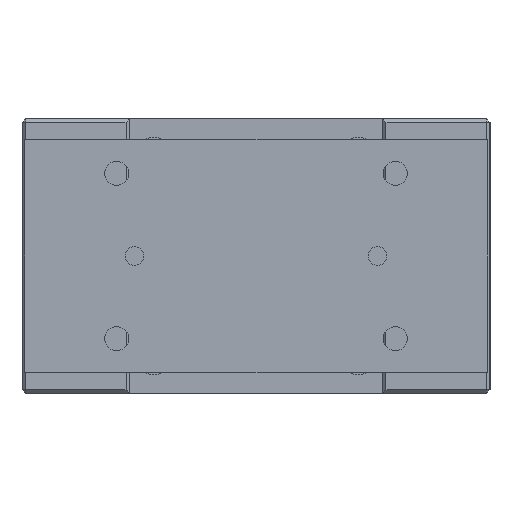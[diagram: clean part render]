
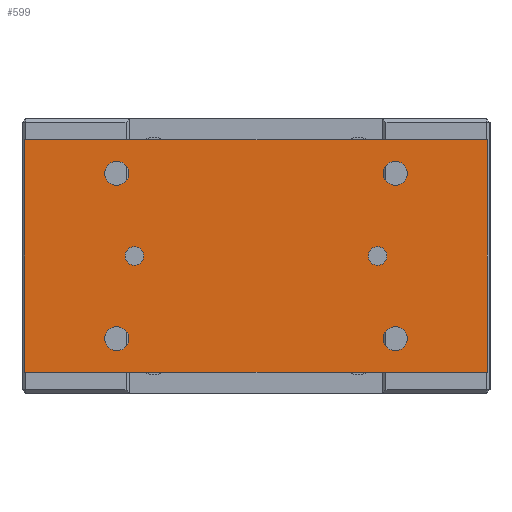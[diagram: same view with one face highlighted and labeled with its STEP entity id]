
A CAD part, left-side view. The second image highlights one B-rep face of the part: STEP entity #599.
In plain terms, the highlighted planar face has unit normal (-1, 0, 0).
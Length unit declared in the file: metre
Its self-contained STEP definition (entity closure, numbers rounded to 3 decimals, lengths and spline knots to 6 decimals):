
#599 = ADVANCED_FACE( '', ( #1366, #1367, #1368, #1369, #1370, #1371, #1372 ), #1373, .T. );
#1366 = FACE_BOUND( '', #2256, .T. );
#1367 = FACE_BOUND( '', #2257, .T. );
#1368 = FACE_BOUND( '', #2258, .T. );
#1369 = FACE_BOUND( '', #2259, .T. );
#1370 = FACE_BOUND( '', #2260, .T. );
#1371 = FACE_BOUND( '', #2261, .T. );
#1372 = FACE_OUTER_BOUND( '', #2262, .T. );
#1373 = PLANE( '', #2263 );
#2256 = EDGE_LOOP( '', ( #3744 ) );
#2257 = EDGE_LOOP( '', ( #3745 ) );
#2258 = EDGE_LOOP( '', ( #3746 ) );
#2259 = EDGE_LOOP( '', ( #3747 ) );
#2260 = EDGE_LOOP( '', ( #3748 ) );
#2261 = EDGE_LOOP( '', ( #3749 ) );
#2262 = EDGE_LOOP( '', ( #3750, #3751, #3752, #3753 ) );
#2263 = AXIS2_PLACEMENT_3D( '', #3754, #3755, #3756 );
#3744 = ORIENTED_EDGE( '', *, *, #4659, .F. );
#3745 = ORIENTED_EDGE( '', *, *, #4706, .T. );
#3746 = ORIENTED_EDGE( '', *, *, #4683, .F. );
#3747 = ORIENTED_EDGE( '', *, *, #4806, .F. );
#3748 = ORIENTED_EDGE( '', *, *, #4537, .F. );
#3749 = ORIENTED_EDGE( '', *, *, #4807, .F. );
#3750 = ORIENTED_EDGE( '', *, *, #4361, .T. );
#3751 = ORIENTED_EDGE( '', *, *, #4323, .T. );
#3752 = ORIENTED_EDGE( '', *, *, #4808, .T. );
#3753 = ORIENTED_EDGE( '', *, *, #4809, .T. );
#3754 = CARTESIAN_POINT( '', ( -0.143, -0.1245, -0.0115 ) );
#3755 = DIRECTION( '', ( -1., 0., 0. ) );
#3756 = DIRECTION( '', ( 0., 0., 1. ) );
#4323 = EDGE_CURVE( '', #4994, #4992, #4995, .T. );
#4361 = EDGE_CURVE( '', #5058, #4994, #5059, .T. );
#4537 = EDGE_CURVE( '', #5338, #5338, #5339, .T. );
#4659 = EDGE_CURVE( '', #5523, #5523, #5524, .T. );
#4683 = EDGE_CURVE( '', #5558, #5558, #5559, .T. );
#4706 = EDGE_CURVE( '', #5588, #5588, #5589, .T. );
#4806 = EDGE_CURVE( '', #5720, #5720, #5721, .T. );
#4807 = EDGE_CURVE( '', #5722, #5722, #5723, .T. );
#4808 = EDGE_CURVE( '', #4992, #5724, #5725, .T. );
#4809 = EDGE_CURVE( '', #5724, #5058, #5726, .T. );
#4992 = VERTEX_POINT( '', #5973 );
#4994 = VERTEX_POINT( '', #5976 );
#4995 = LINE( '', #5977, #5978 );
#5058 = VERTEX_POINT( '', #6092 );
#5059 = LINE( '', #6093, #6094 );
#5338 = VERTEX_POINT( '', #6517 );
#5339 = CIRCLE( '', #6518, 0.0065 );
#5523 = VERTEX_POINT( '', #6823 );
#5524 = CIRCLE( '', #6824, 0.005 );
#5558 = VERTEX_POINT( '', #6866 );
#5559 = CIRCLE( '', #6867, 0.0065 );
#5588 = VERTEX_POINT( '', #6909 );
#5589 = CIRCLE( '', #6910, 0.005 );
#5720 = VERTEX_POINT( '', #7108 );
#5721 = CIRCLE( '', #7109, 0.0065 );
#5722 = VERTEX_POINT( '', #7110 );
#5723 = CIRCLE( '', #7111, 0.0065 );
#5724 = VERTEX_POINT( '', #7112 );
#5725 = LINE( '', #7113, #7114 );
#5726 = LINE( '', #7115, #7116 );
#5973 = CARTESIAN_POINT( '', ( -0.143, 0.1245, -0.0115 ) );
#5976 = CARTESIAN_POINT( '', ( -0.143, -0.1245, -0.0115 ) );
#5977 = CARTESIAN_POINT( '', ( -0.143, -0.1245, -0.0115 ) );
#5978 = VECTOR( '', #7334, 1. );
#6092 = CARTESIAN_POINT( '', ( -0.143, -0.1245, -0.1365 ) );
#6093 = CARTESIAN_POINT( '', ( -0.143, -0.1245, -0.1365 ) );
#6094 = VECTOR( '', #7377, 1. );
#6517 = CARTESIAN_POINT( '', ( -0.143, -0.075, -0.023 ) );
#6518 = AXIS2_PLACEMENT_3D( '', #7582, #7583, #7584 );
#6823 = CARTESIAN_POINT( '', ( -0.143, -0.0705, -0.074 ) );
#6824 = AXIS2_PLACEMENT_3D( '', #7721, #7722, #7723 );
#6866 = CARTESIAN_POINT( '', ( -0.143, -0.075, -0.112 ) );
#6867 = AXIS2_PLACEMENT_3D( '', #7753, #7754, #7755 );
#6909 = CARTESIAN_POINT( '', ( -0.143, 0.0705, -0.074 ) );
#6910 = AXIS2_PLACEMENT_3D( '', #7775, #7776, #7777 );
#7108 = CARTESIAN_POINT( '', ( -0.143, 0.075, -0.112 ) );
#7109 = AXIS2_PLACEMENT_3D( '', #7878, #7879, #7880 );
#7110 = CARTESIAN_POINT( '', ( -0.143, 0.075, -0.023 ) );
#7111 = AXIS2_PLACEMENT_3D( '', #7881, #7882, #7883 );
#7112 = CARTESIAN_POINT( '', ( -0.143, 0.1245, -0.1365 ) );
#7113 = CARTESIAN_POINT( '', ( -0.143, 0.1245, -0.0115 ) );
#7114 = VECTOR( '', #7884, 1. );
#7115 = CARTESIAN_POINT( '', ( -0.143, 0.1245, -0.1365 ) );
#7116 = VECTOR( '', #7885, 1. );
#7334 = DIRECTION( '', ( 0., 1., 0. ) );
#7377 = DIRECTION( '', ( 0., 0., 1. ) );
#7582 = CARTESIAN_POINT( '', ( -0.143, -0.075, -0.0295 ) );
#7583 = DIRECTION( '', ( -1., 0., 0. ) );
#7584 = DIRECTION( '', ( 0., 0., 1. ) );
#7721 = CARTESIAN_POINT( '', ( -0.143, -0.0655, -0.074 ) );
#7722 = DIRECTION( '', ( -1., 0., 0. ) );
#7723 = DIRECTION( '', ( 0., -1., 0. ) );
#7753 = CARTESIAN_POINT( '', ( -0.143, -0.075, -0.1185 ) );
#7754 = DIRECTION( '', ( -1., 0., 0. ) );
#7755 = DIRECTION( '', ( 0., 0., 1. ) );
#7775 = CARTESIAN_POINT( '', ( -0.143, 0.0655, -0.074 ) );
#7776 = DIRECTION( '', ( 1., 0., 0. ) );
#7777 = DIRECTION( '', ( 0., 1., 0. ) );
#7878 = CARTESIAN_POINT( '', ( -0.143, 0.075, -0.1185 ) );
#7879 = DIRECTION( '', ( -1., 0., 0. ) );
#7880 = DIRECTION( '', ( 0., 0., 1. ) );
#7881 = CARTESIAN_POINT( '', ( -0.143, 0.075, -0.0295 ) );
#7882 = DIRECTION( '', ( -1., 0., 0. ) );
#7883 = DIRECTION( '', ( 0., 0., 1. ) );
#7884 = DIRECTION( '', ( 0., 0., -1. ) );
#7885 = DIRECTION( '', ( 0., -1., 0. ) );
